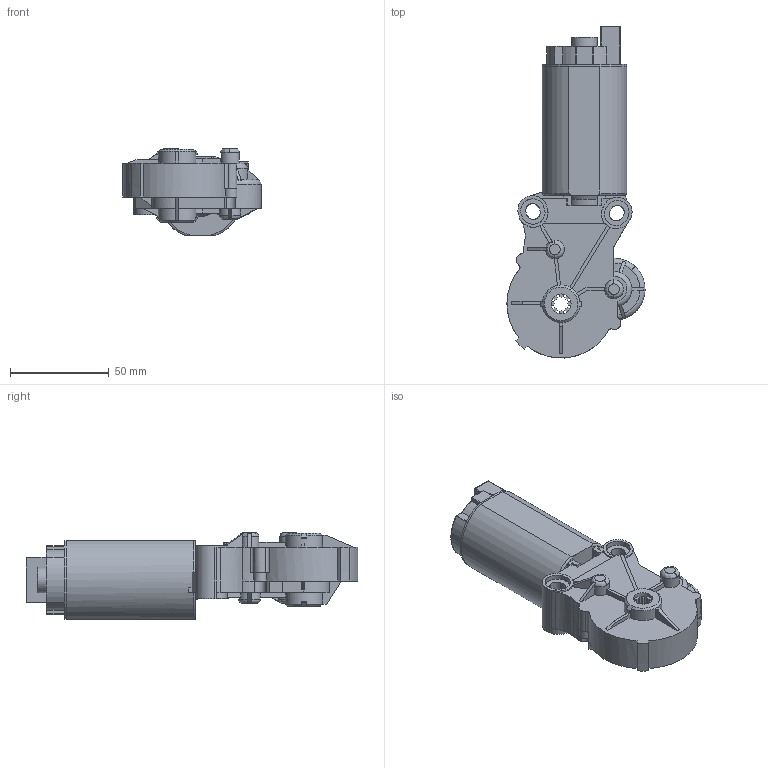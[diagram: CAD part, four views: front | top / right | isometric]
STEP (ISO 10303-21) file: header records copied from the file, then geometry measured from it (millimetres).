
FILE_DESCRIPTION (( 'STEP AP214' ), '1' );
FILE_NAME ('404748.step', '2020-10-27T09:11:19', ( '' ), ( '' ), 'SwSTEP 2.0', 'SolidWorks 2010', '' );
FILE_SCHEMA (( 'AUTOMOTIVE_DESIGN' ));
Length unit declared in the file: millimetre
Products named in the file (3): Motor-End-GMPD-KGK; Motor-404748-KGK; 404748
Assembly tree (2 placements, depth 2):
  404748
    Motor-404748-KGK
    Motor-End-GMPD-KGK
Bounding box: 70.05 x 168.46 x 44.1 mm (x, y, z)
Volume: 203216.3 mm3; surface area: 38109.2 mm2
Topology: 2 solids, 2 shells, 428 faces, 1403 edges, 988 vertices
Faces by surface type: bspline 243, cylinder 100, plane 76, cone 9
Full cylindrical faces by diameter (mm): 3 x2, 5 x1, 9 x1, 9.5 x1, 10 x1, 13 x1
Entity records: 18645 total; most frequent: CARTESIAN_POINT 9125, ORIENTED_EDGE 2752, EDGE_CURVE 1376, B_SPLINE_CURVE_WITH_KNOTS 1115, VERTEX_POINT 982, DIRECTION 729, EDGE_LOOP 464, FACE_OUTER_BOUND 439
